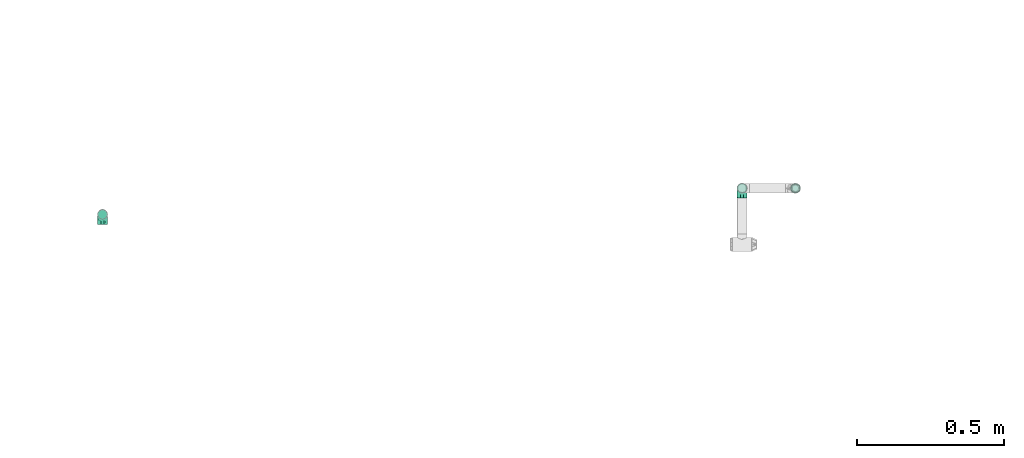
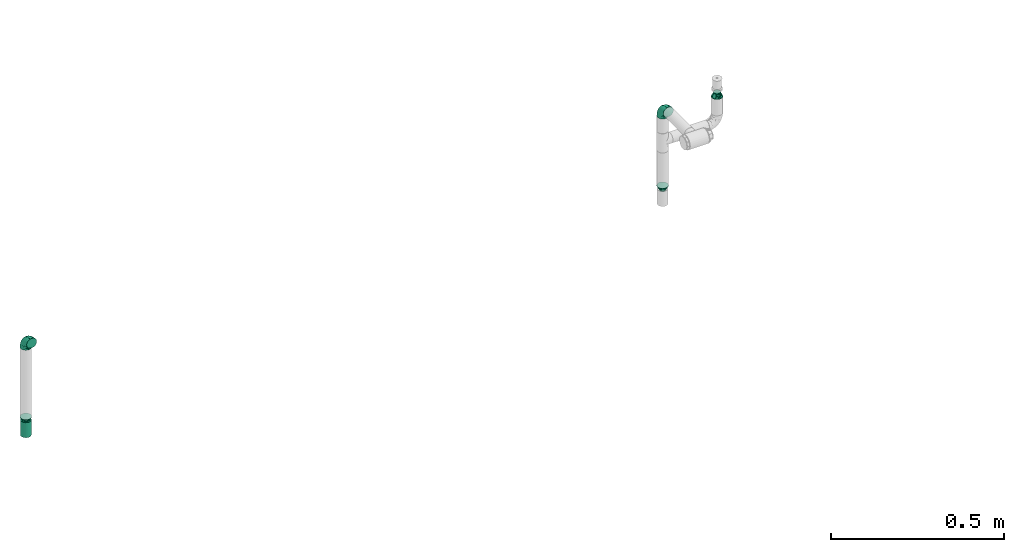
# One storey, part 132 of 157: 5 flow fittings, 1 flow terminal.
"""IFC2X3 building model written with IfcOpenShell, lengths in millimetres."""

from ifc_helpers import new_model, entity, si_unit, converted_unit, derived_unit, direction, frame, origin_with_axes, place, context, subcontext, project, spatial, open_shell, surface_model, source, transform, mapped, type_object, element, save


model = new_model("IFC2X3")

# Units and contexts
model_context = context("Model", 3, precision=0.01, world=frame((0.0, 4.29681676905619e-09, 0.0)), true_north=direction((4.01073788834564e-13, 1.0)))
plan_context = context("Plan", 3, precision=0.01, world=frame((0.0, 4.29681676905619e-09, 0.0)), true_north=direction((4.01073788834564e-13, 1.0)))
body_context = subcontext(model_context, "Body", "Model", "MODEL_VIEW")
ifc_project = project(units=[converted_unit("PLANEANGLEUNIT", "DEGREE", entity("IfcPositiveLengthMeasure", 0.0174532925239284), si_unit("PLANEANGLEUNIT", "RADIAN"), dimensions=[0, 0, 0, 0, 0, 0, 0]), si_unit("AREAUNIT", "SQUARE_METRE"), si_unit("LENGTHUNIT", "METRE", prefix="MILLI"), si_unit("MASSUNIT", "GRAM", prefix="KILO"), si_unit("POWERUNIT", "WATT"), si_unit("PRESSUREUNIT", "PASCAL"), si_unit("FORCEUNIT", "NEWTON", prefix="KILO"), si_unit("ELECTRICCURRENTUNIT", "AMPERE"), si_unit("THERMODYNAMICTEMPERATUREUNIT", "DEGREE_CELSIUS"), si_unit("TIMEUNIT", "SECOND"), si_unit("VOLUMEUNIT", "CUBIC_METRE"), derived_unit("LINEARVELOCITYUNIT", [(si_unit("LENGTHUNIT", "METRE"), 1), (si_unit("TIMEUNIT", "SECOND"), -1)]), derived_unit("VOLUMETRICFLOWRATEUNIT", [(si_unit("VOLUMEUNIT", "CUBIC_METRE"), 1), (si_unit("TIMEUNIT", "SECOND"), -1)]), derived_unit("THERMALTRANSMITTANCEUNIT", [(si_unit("POWERUNIT", "WATT"), 1), (si_unit("THERMODYNAMICTEMPERATUREUNIT", "KELVIN"), -1), (si_unit("AREAUNIT", "SQUARE_METRE"), -1)])], contexts=[model_context, plan_context])

# Site, building, storey
site_placement = place(None, frame((0.0, -4.29681676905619e-09, 0.0), z_axis=(0.0, 0.0, 1.0), x_axis=(1.0, 0.0, 0.0)))
site = spatial("IfcSite", under=ifc_project, at=site_placement, CompositionType="ELEMENT")
building_placement = place(site_placement, frame((0.0, 4.29681676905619e-09, 0.0), z_axis=(0.0, 0.0, 1.0), x_axis=(1.0, 0.0, 0.0)))
building = spatial("IfcBuilding", under=site, at=building_placement, Name="mc-building", CompositionType="ELEMENT")
storey_placement = place(building_placement, frame((0.0, 0.0, 204000.0), z_axis=(0.0, 0.0, 1.0), x_axis=(1.0, 0.0, 0.0)))
storey = spatial("IfcBuildingStorey", under=building, at=storey_placement, Name="Nivå D", CompositionType="ELEMENT", Elevation=204000.0)

# Flow fittings
pipe_fitting_type_1 = type_object("IfcPipeFittingType", Name="magi_pipe_fe_elbow_short_001", PredefinedType="BEND")
shared_shape_1 = source(origin_with_axes(), body_context, "Body", "SurfaceModel", [
    surface_model("IfcShellBasedSurfaceModel", [(-33.8, 8.45, -14.63583), (-33.8, 4.37404, -16.32415), (-33.8, 11.9501, -11.9501), (-33.8, -11.9501, -11.9501), (-33.8, -14.63583, -8.45), (-33.8, -8.45, -14.63583), (-33.8, 0.0, -16.9), (-33.8, -4.37404, -16.32415), (-33.8, -4.37404, 16.32415), (-33.8, 0.0, 16.9), (-33.8, -8.45, 14.63583), (-33.8, 16.32415, -4.37404), (-33.8, 14.63583, -8.45), (-33.8, -16.32415, -4.37404), (-33.8, -16.9, 0.0), (-33.8, -16.32415, 4.37404), (-33.8, 11.9501, 11.9501), (-33.8, 14.63583, 8.45), (-33.8, 16.32415, 4.37404), (-33.8, 4.37404, 16.32415), (-33.8, 8.45, 14.63583), (-33.8, -14.63583, 8.45), (-33.8, -11.9501, 11.9501), (-33.8, 16.9, 0.0), (-11.9501, 33.8, -11.9501), (0.0, 33.8, -16.9), (-4.37404, 33.8, -16.32415), (-8.45, 33.8, -14.63583), (-14.63583, 33.8, -8.45), (-16.32415, 33.8, -4.37404), (14.63583, 33.8, -8.45), (8.45, 33.8, 14.63583), (16.32415, 33.8, -4.37404), (8.45, 33.8, -14.63583), (11.9501, 33.8, -11.9501), (4.37404, 33.8, -16.32415), (16.32415, 33.8, 4.37404), (16.9, 33.8, 0.0), (-11.9501, 33.8, 11.9501), (-16.32415, 33.8, 4.37404), (-14.63583, 33.8, 8.45), (-8.45, 33.8, 14.63583), (-4.37404, 33.8, 16.32415), (11.9501, 33.8, 11.9501), (14.63583, 33.8, 8.45), (0.0, 33.8, 16.9), (4.37404, 33.8, 16.32415), (-16.9, 33.8, 0.0), (-24.79389, -13.12945, 9.48721), (-22.19287, -9.75018, 12.59315), (-24.09897, -14.97035, 0.0), (-14.93934, -10.76256, 8.5297), (-22.46095, -14.75051, 5.27077), (14.75051, 22.46094, 5.27077), (11.9251, 13.23888, 4.33236), (13.04069, 14.39795, 0.0), (7.71387, 13.68847, 11.55891), (9.75018, 22.19287, 12.59315), (4.10169, 13.0571, 14.04018), (-24.84007, -6.39063, 15.2048), (-25.81779, -2.23879, 16.61097), (-23.66549, 2.59054, 16.87119), (-26.50418, 14.06512, 11.08152), (-24.21253, 17.66365, 7.72657), (-29.58514, 15.86957, 7.00283), (-6.17382, -7.5455, 0.0), (-13.23888, -11.9251, 4.33236), (-14.39795, -13.04069, 0.0), (-17.81434, 18.87373, 11.97104), (-6.30846, 29.15138, 15.82987), (-2.31622, 25.28002, 16.85849), (-29.23923, 10.23435, 13.77053), (-1.45439, -2.85688, 7.61475), (-0.28326, 0.34872, 10.09509), (-5.74484, -4.04709, 10.4122), (-4.41137, 11.31918, 16.59407), (-8.39727, 3.10034, 15.7812), (-1.72649, 9.1306, 15.53089), (-17.39909, 24.75344, 7.64977), (-26.19233, 20.0512, 0.0), (-28.14518, 17.29657, 4.25857), (-26.05147, 6.6281, 15.96447), (-5.87354, 16.61944, 16.86968), (-12.51807, 12.51807, 16.48937), (-10.06312, 7.38516, 16.81295), (-3.01882, 3.01882, 13.81718), (-13.0571, -4.10169, 14.04018), (-16.82553, -0.15166, 16.38038), (10.76256, 14.93934, 8.5297), (13.12945, 24.79389, 9.48721), (6.39063, 24.84007, 15.2048), (2.23879, 25.81779, 16.61097), (-13.68847, -7.71387, 11.55891), (14.97035, 24.09897, 0.0), (-7.30894, 22.89991, 16.09489), (-10.67958, 26.17414, 14.008), (-12.78295, 18.26924, 15.06066), (-13.88562, 22.45231, 12.93244), (-18.04944, 15.16501, 14.04434), (-23.11658, 20.08178, 4.02986), (-21.84989, 21.84989, 0.0), (-18.55817, 25.48277, 3.93065), (-13.95142, 26.94732, 11.03289), (-18.57098, 7.23906, 16.59756), (-16.58335, 4.14122, 16.89279), (-17.96666, 11.46709, 15.63151), (-9.84453, 17.54304, 16.18938), (0.15166, 16.82553, 16.38038), (-23.27207, 11.47201, 14.23154), (3.84842, 5.86994, 10.70473), (-8.0212, -7.54413, 7.93275), (1.00345, -2.19508, 4.57414), (5.13203, 3.01004, 5.90201), (5.24161, 1.7543, 2.53265), (8.70457, 7.04947, 3.99182), (-20.0512, 26.19233, 0.0), (8.4852, 8.76699, 7.09296), (-4.55488, -6.72064, 4.90681), (2.05031, -2.05031, 0.0), (7.5455, 6.17382, 0.0), (-26.75399, 2.1369, -16.845), (-14.61995, 24.73803, -11.27736), (-28.45274, -13.45335, -9.81895), (-26.00469, 6.63555, -15.96645), (-23.06726, 20.04573, -4.26202), (-13.80647, -4.26506, -14.17873), (-14.67501, -0.21081, -16.07388), (-6.7902, -0.2828, -13.8478), (-24.53586, 11.08096, -14.13417), (-26.72048, 14.00837, -11.05776), (10.0967, 24.44989, -12.75976), (5.83237, 21.40218, -15.03047), (6.66249, 28.54238, -15.38093), (-20.38182, 15.48705, -12.74596), (12.53268, 21.23441, -9.15363), (12.54494, 15.67504, -5.54878), (9.7522, 12.89279, -8.66343), (-15.65186, 19.64213, -13.01327), (-12.03528, 20.66498, -14.67665), (-15.61907, 15.61906, -14.83879), (-25.56551, -15.26206, 0.0), (-24.65452, -15.12934, -5.50955), (13.45335, 28.45274, -9.81895), (15.12934, 24.65452, -5.50955), (-7.35442, -8.31014, -5.65563), (-15.67504, -12.54494, -5.54878), (-24.44989, -10.0967, -12.75976), (0.16522, 0.41303, -9.71728), (-5.70658, -5.33066, -8.89288), (-5.13869, -2.37198, -11.53565), (-21.23441, -12.53268, -9.15363), (0.71146, 7.93863, -14.09382), (0.21081, 14.67501, -16.07388), (3.49291, 14.42772, -14.76381), (-24.89911, -2.13088, -16.591), (-28.54238, -6.66249, -15.38093), (-18.44386, -7.71663, -13.26957), (2.13088, 24.89911, -16.591), (-28.64342, 17.44413, -2.89318), (1.70017, -1.28722, -5.09504), (-16.57067, 26.81947, -7.36596), (-17.69055, 27.4263, -3.76405), (-12.89279, -9.7522, -8.66343), (-5.96611, 5.96611, -15.95814), (-20.53709, 20.09345, -8.28985), (-2.1369, 26.75399, -16.845), (-6.89872, 24.58781, -16.02578), (-10.60739, 26.53157, -13.98044), (-21.40218, -5.83237, -15.03047), (2.93192, 5.89627, -11.55917), (6.89393, 12.61842, -11.82233), (5.58056, 5.95325, -8.79455), (-3.99512, 18.61798, -16.89635), (8.31014, 7.35442, -5.65563), (-9.1383, 9.86148, -16.89041), (-9.99983, 16.02119, -16.39699), (-16.68576, 9.78031, -16.34199), (-27.01915, 16.61158, -7.12979), (15.26206, 25.56551, 0.0), (-18.61798, 3.99512, -16.89635), (-19.37495, 27.82495, 0.0), (-12.61842, -6.89393, -11.82233), (-18.84705, 19.14018, -10.96545)], [open_shell([[[0, 1, 2]], [[3, 4, 5]], [[6, 7, 5]], [[8, 9, 10]], [[1, 6, 2]], [[11, 12, 2]], [[4, 2, 6]], [[2, 13, 10]], [[5, 4, 6]], [[2, 4, 13]], [[14, 15, 13]], [[11, 2, 16]], [[11, 17, 18]], [[11, 16, 17]], [[19, 20, 16]], [[16, 2, 10]], [[19, 16, 10]], [[21, 22, 15]], [[22, 13, 15]], [[22, 10, 13]], [[10, 9, 19]], [[11, 18, 23]], [[24, 25, 26]], [[24, 26, 27]], [[24, 28, 29]], [[25, 24, 30]], [[31, 32, 24]], [[33, 30, 34]], [[33, 35, 25]], [[25, 30, 33]], [[32, 30, 24]], [[32, 36, 37]], [[38, 24, 29]], [[39, 40, 29]], [[40, 38, 29]], [[38, 41, 42]], [[38, 31, 24]], [[31, 38, 42]], [[36, 43, 44]], [[36, 32, 43]], [[31, 45, 46]], [[32, 31, 43]], [[42, 45, 31]], [[39, 29, 47]], [[22, 48, 49]], [[15, 14, 50]], [[51, 48, 52]], [[53, 54, 55]], [[48, 22, 21]], [[15, 52, 21]], [[56, 57, 58]], [[49, 10, 22]], [[49, 59, 10]], [[9, 60, 61]], [[62, 63, 64]], [[65, 66, 67]], [[57, 43, 31]], [[62, 68, 63]], [[42, 69, 70]], [[20, 71, 16]], [[8, 60, 9]], [[72, 73, 74]], [[75, 76, 77]], [[16, 62, 17]], [[40, 39, 78]], [[79, 23, 80]], [[64, 18, 17]], [[9, 61, 19]], [[19, 81, 20]], [[82, 83, 84]], [[74, 85, 86]], [[59, 86, 87]], [[88, 89, 57]], [[90, 31, 46]], [[44, 53, 36]], [[46, 45, 91]], [[54, 53, 88]], [[44, 89, 53]], [[92, 86, 49]], [[89, 44, 43]], [[10, 59, 8]], [[53, 55, 93]], [[93, 36, 53]], [[66, 52, 67]], [[94, 82, 70]], [[95, 96, 94]], [[97, 98, 96]], [[79, 99, 100]], [[41, 38, 95]], [[101, 100, 99]], [[68, 78, 63]], [[42, 41, 69]], [[23, 18, 80]], [[95, 94, 69]], [[78, 101, 99]], [[38, 102, 95]], [[70, 45, 42]], [[97, 95, 102]], [[15, 50, 52]], [[90, 57, 31]], [[57, 90, 58]], [[81, 19, 61]], [[103, 104, 84]], [[105, 81, 103]], [[38, 40, 102]], [[106, 96, 83]], [[94, 106, 82]], [[91, 70, 107]], [[71, 62, 16]], [[62, 108, 98]], [[86, 59, 49]], [[67, 52, 50]], [[60, 59, 87]], [[92, 49, 51]], [[86, 85, 76]], [[91, 90, 46]], [[37, 36, 93]], [[107, 77, 58]], [[107, 58, 90]], [[58, 85, 109]], [[110, 74, 92]], [[72, 74, 110]], [[66, 51, 52]], [[72, 111, 112]], [[113, 114, 112]], [[56, 88, 57]], [[52, 48, 21]], [[49, 48, 51]], [[57, 89, 43]], [[53, 89, 88]], [[103, 81, 61]], [[71, 81, 108]], [[18, 64, 80]], [[63, 78, 99]], [[47, 115, 101]], [[101, 115, 100]], [[40, 78, 102]], [[68, 102, 78]], [[97, 96, 95]], [[105, 98, 108]], [[103, 84, 83]], [[107, 70, 82]], [[76, 84, 87]], [[82, 84, 75]], [[70, 91, 45]], [[90, 91, 107]], [[59, 60, 8]], [[61, 60, 87]], [[73, 85, 74]], [[109, 112, 116]], [[103, 61, 104]], [[105, 103, 83]], [[96, 105, 83]], [[81, 105, 108]], [[96, 98, 105]], [[62, 98, 68]], [[61, 87, 104]], [[87, 84, 104]], [[86, 76, 87]], [[77, 76, 85]], [[58, 77, 85]], [[75, 77, 107]], [[82, 75, 107]], [[76, 75, 84]], [[81, 71, 20]], [[62, 71, 108]], [[95, 69, 41]], [[70, 69, 94]], [[62, 64, 17]], [[80, 63, 99]], [[63, 80, 64]], [[80, 99, 79]], [[66, 65, 117]], [[110, 66, 117]], [[112, 114, 116]], [[118, 117, 65]], [[110, 92, 51]], [[112, 111, 113]], [[119, 55, 54]], [[74, 86, 92]], [[58, 109, 56]], [[116, 56, 109]], [[66, 110, 51]], [[72, 110, 117]], [[111, 72, 117]], [[73, 112, 109]], [[117, 118, 111]], [[113, 111, 118]], [[118, 119, 113]], [[114, 119, 54]], [[119, 114, 113]], [[116, 54, 88]], [[54, 116, 114]], [[116, 88, 56]], [[112, 73, 72]], [[85, 73, 109]], [[78, 39, 101]], [[47, 101, 39]], [[102, 68, 97]], [[97, 68, 98]], [[82, 106, 83]], [[94, 96, 106]], [[1, 120, 6]], [[28, 24, 121]], [[3, 122, 4]], [[0, 123, 1]], [[100, 124, 79]], [[125, 126, 127]], [[128, 2, 129]], [[130, 131, 132]], [[128, 129, 133]], [[134, 135, 136]], [[137, 138, 139]], [[128, 0, 2]], [[67, 140, 141]], [[134, 142, 143]], [[141, 13, 4]], [[144, 65, 145]], [[146, 3, 5]], [[147, 148, 149]], [[145, 141, 150]], [[151, 152, 153]], [[154, 7, 6]], [[5, 155, 146]], [[150, 146, 156]], [[155, 5, 7]], [[143, 135, 134]], [[35, 157, 25]], [[23, 79, 158]], [[148, 159, 144]], [[160, 161, 29]], [[145, 162, 144]], [[163, 152, 151]], [[29, 28, 160]], [[121, 164, 160]], [[33, 34, 130]], [[25, 165, 26]], [[26, 165, 166]], [[142, 34, 30]], [[24, 27, 167]], [[124, 161, 164]], [[157, 35, 132]], [[155, 154, 168]], [[123, 0, 128]], [[169, 170, 171]], [[172, 157, 152]], [[26, 166, 27]], [[132, 35, 33]], [[142, 130, 34]], [[168, 154, 126]], [[136, 135, 173]], [[133, 137, 139]], [[2, 12, 129]], [[170, 131, 130]], [[30, 32, 143]], [[172, 174, 175]], [[176, 123, 128]], [[158, 177, 11]], [[135, 55, 119]], [[167, 27, 166]], [[175, 166, 172]], [[137, 167, 138]], [[122, 141, 4]], [[140, 14, 13]], [[32, 37, 178]], [[170, 130, 134]], [[152, 157, 131]], [[165, 157, 172]], [[153, 170, 151]], [[152, 163, 174]], [[168, 125, 156]], [[122, 146, 150]], [[120, 154, 6]], [[179, 174, 126]], [[179, 126, 154]], [[126, 163, 127]], [[162, 145, 150]], [[140, 13, 141]], [[32, 178, 143]], [[55, 143, 178]], [[177, 129, 12]], [[128, 133, 139]], [[176, 128, 139]], [[120, 123, 179]], [[121, 160, 28]], [[161, 100, 180]], [[166, 175, 138]], [[121, 24, 167]], [[161, 47, 29]], [[79, 124, 158]], [[124, 164, 177]], [[161, 124, 100]], [[136, 171, 170]], [[127, 163, 151]], [[147, 171, 159]], [[148, 144, 162]], [[127, 151, 169]], [[127, 181, 125]], [[129, 177, 164]], [[12, 11, 177]], [[159, 65, 144]], [[67, 141, 145]], [[143, 55, 135]], [[135, 119, 173]], [[123, 120, 1]], [[154, 120, 179]], [[157, 165, 25]], [[166, 165, 172]], [[172, 152, 174]], [[176, 139, 175]], [[126, 174, 163]], [[176, 174, 179]], [[174, 176, 175]], [[123, 176, 179]], [[150, 181, 162]], [[127, 149, 181]], [[181, 148, 162]], [[159, 148, 147]], [[171, 136, 173]], [[170, 134, 136]], [[159, 171, 173]], [[171, 147, 169]], [[169, 147, 149]], [[151, 170, 169]], [[164, 182, 129]], [[182, 121, 137]], [[181, 149, 148]], [[169, 149, 127]], [[182, 137, 133]], [[167, 137, 121]], [[166, 138, 167]], [[175, 139, 138]], [[129, 182, 133]], [[121, 182, 164]], [[161, 160, 164]], [[47, 161, 180]], [[177, 158, 124]], [[23, 158, 11]], [[130, 132, 33]], [[157, 132, 131]], [[143, 142, 30]], [[130, 142, 134]], [[154, 155, 7]], [[146, 155, 168]], [[146, 122, 3]], [[141, 122, 150]], [[152, 131, 153]], [[159, 119, 118]], [[67, 145, 65]], [[170, 153, 131]], [[119, 159, 173]], [[159, 118, 65]], [[156, 125, 181]], [[126, 125, 168]], [[150, 156, 181]], [[168, 156, 146]]])]),
])
for number, where, z_axis, x_axis, name in (
    (1, (515833.78292, 420208.84509, 2690.0), (1.0, 0.0, 0.0), (0.0, 0.0, 1.0), "magi_pipe_fe_elbow_short_001"),
    (2, (518009.38219, 420297.85762, 2690.0), (-1.0, 0.0, 0.0), (0.0, 1.0, 0.0), "magi_pipe_fe_elbow_short_001"),
):
    element("IfcFlowFitting", number, at=place(storey_placement, frame(where, z_axis=z_axis, x_axis=x_axis)), inside=storey, type_object=pipe_fitting_type_1, Name=name, context=body_context, shape_type="MappedRepresentation", body=[
        mapped(shared_shape_1, transform((0.0, 0.0, 0.0), scale=1.0)),
    ])
pipe_fitting_type_2 = type_object("IfcPipeFittingType", Name="magi_pipe_fe_reducer_centric_short_NOR", PredefinedType="TRANSITION")
shared_shape_2 = source(origin_with_axes(), body_context, "Body", "SurfaceModel", [
    surface_model("IfcShellBasedSurfaceModel", [(-2.0, -7.56604, -7.56604), (-2.0, -10.33541, -2.76936), (-2.0, -5.35, -9.26647), (-2.0, 5.35, -9.26647), (-2.0, 10.33541, -2.76936), (-2.0, 7.56604, -7.56604), (12.4, 11.9501, 11.9501), (12.4, 0.0, 16.9), (12.4, 11.9501, -11.9501), (12.4, 16.9, 0.0), (0.0, -10.7, 0.0), (0.0, -5.35, 9.26647), (0.0, -5.35, -9.26647), (0.0, 10.7, 0.0), (12.4, 15.66253, -2.98753), (12.4, 8.96258, -13.18758), (0.0, 6.6875, -6.94985), (12.4, -15.66253, -2.98753), (12.4, -16.9, 0.0), (12.4, 5.97505, -14.42505), (0.0, 5.35, -9.26647), (12.4, 14.42505, -5.97505), (0.0, 8.025, -4.63324), (0.0, 9.3625, -2.31662), (0.0, -9.3625, -2.31662), (0.0, -8.025, -4.63324), (12.4, -14.42505, -5.97505), (12.4, 13.18758, -8.96258), (12.4, -13.18758, -8.96258), (12.4, -11.9501, -11.9501), (0.0, -6.6875, -6.94985), (12.4, -8.96258, -13.18758), (12.4, -5.97505, -14.42505), (12.4, -15.66253, 2.98753), (12.4, -8.96258, 13.18758), (0.0, -6.6875, 6.94985), (12.4, -11.9501, 11.9501), (12.4, 15.66253, 2.98753), (12.4, -5.97505, 14.42505), (12.4, -14.42505, 5.97505), (0.0, -8.025, 4.63324), (0.0, -9.3625, 2.31662), (0.0, 9.3625, 2.31662), (0.0, 8.025, 4.63324), (12.4, 14.42505, 5.97505), (12.4, -13.18758, 8.96258), (12.4, 13.18758, 8.96258), (0.0, 6.6875, 6.94985), (12.4, 8.96258, 13.18758), (0.0, 5.35, 9.26647), (12.4, 5.97505, 14.42505), (14.4, 4.37404, -16.32415), (14.4, 8.45, -14.63583), (14.4, 11.9501, -11.9501), (14.4, -8.45, -14.63583), (14.4, 16.32415, -4.37404), (14.4, 16.32415, 4.37404), (14.4, 14.63583, -8.45), (14.4, 0.0, -16.9), (14.4, -4.37404, -16.32415), (14.4, -11.9501, -11.9501), (14.4, -16.32415, -4.37404), (14.4, -14.63583, -8.45), (14.4, -16.32415, 4.37404), (14.4, 16.9, 0.0), (14.4, 14.63583, 8.45), (14.4, 11.9501, 11.9501), (14.4, 4.37404, 16.32415), (14.4, 8.45, 14.63583), (14.4, 0.0, 16.9), (14.4, -14.63583, 8.45), (14.4, -16.9, 0.0), (14.4, -8.45, 14.63583), (14.4, -11.9501, 11.9501), (14.4, -4.37404, 16.32415), (12.4, 4.37404, 16.32415), (12.4, -14.63583, 8.45), (12.4, 16.32415, 4.37404), (12.4, 8.45, 14.63583), (12.4, 14.63583, 8.45), (12.4, -8.45, 14.63583), (12.4, -4.37404, 16.32415), (12.4, -16.32415, 4.37404), (12.4, -16.32415, -4.37404), (12.4, -8.45, -14.63583), (12.4, 16.32415, -4.37404), (12.4, 14.63583, -8.45), (12.4, 8.45, -14.63583), (12.4, 4.37404, -16.32415), (12.4, 0.0, -16.9), (12.4, -14.63583, -8.45), (12.4, -4.37404, -16.32415), (-2.0, 2.76936, 10.33541), (-2.0, 0.0, 10.7), (-2.0, 5.35, 9.26647), (-2.0, 7.56604, 7.56604), (-2.0, 9.26647, 5.35), (-2.0, 10.33541, 2.76936), (-2.0, -10.33541, 2.76936), (-2.0, -2.76936, 10.33541), (-2.0, -7.56604, 7.56604), (-2.0, -5.35, 9.26647), (-2.0, -9.26647, 5.35), (-2.0, -10.7, 0.0), (-2.0, 9.26647, -5.35), (-2.0, 2.76936, -10.33541), (-2.0, -9.26647, -5.35), (-2.0, 0.0, -10.7), (-2.0, -2.76936, -10.33541), (-2.0, 10.7, 0.0), (0.0, 0.0, -10.7), (0.0, 2.76936, -10.33541), (0.0, 10.33541, -2.76936), (0.0, 7.56604, -7.56604), (0.0, -10.33541, -2.76936), (0.0, 9.26647, -5.35), (0.0, 0.0, 10.7), (0.0, -2.76936, -10.33541), (0.0, -7.56604, -7.56604), (0.0, -9.26647, -5.35), (0.0, 10.33541, 2.76936), (0.0, 9.26647, 5.35), (0.0, 7.56604, 7.56604), (0.0, 2.76936, 10.33541), (0.0, -7.56604, 7.56604), (0.0, -10.33541, 2.76936), (0.0, -9.26647, 5.35), (0.0, -2.76936, 10.33541), (0.0, 2.675, -9.26647), (0.0, -2.675, -9.26647), (12.4, 2.98753, -15.66253), (0.0, 0.0, -9.26647), (12.4, -2.98753, -15.66253), (0.0, -2.675, 9.26647), (0.0, 2.675, 9.26647), (12.4, -2.98753, 15.66253), (0.0, 0.0, 9.26647), (12.4, 2.98753, 15.66253)], [open_shell([[[0, 1, 2]], [[3, 4, 5]], [[6, 7, 8]], [[8, 9, 6]], [[10, 11, 12]], [[13, 9, 14]], [[15, 16, 8]], [[17, 18, 10]], [[15, 19, 20]], [[21, 22, 23]], [[24, 25, 26]], [[22, 21, 27]], [[28, 26, 25]], [[29, 30, 31]], [[12, 32, 31]], [[10, 18, 33]], [[34, 35, 36]], [[37, 9, 13]], [[34, 38, 11]], [[39, 40, 41]], [[42, 43, 44]], [[40, 39, 45]], [[46, 44, 43]], [[6, 47, 48]], [[49, 50, 48]], [[51, 52, 53]], [[54, 51, 53]], [[53, 55, 56]], [[55, 53, 57]], [[53, 56, 54]], [[58, 54, 59]], [[58, 51, 54]], [[60, 61, 62]], [[61, 60, 54]], [[54, 63, 61]], [[56, 55, 64]], [[56, 65, 66]], [[56, 66, 67]], [[67, 63, 54]], [[67, 66, 68]], [[63, 67, 69]], [[69, 70, 63]], [[71, 61, 63]], [[70, 72, 73]], [[70, 69, 72]], [[72, 69, 74]], [[54, 56, 67]], [[75, 76, 7]], [[77, 75, 78]], [[6, 79, 77]], [[6, 77, 78]], [[76, 75, 77]], [[80, 76, 36]], [[80, 81, 7]], [[7, 76, 80]], [[82, 76, 77]], [[82, 83, 18]], [[82, 77, 84]], [[77, 85, 8]], [[8, 85, 86]], [[8, 87, 88]], [[84, 77, 8]], [[88, 89, 8]], [[83, 29, 90]], [[29, 83, 84]], [[84, 89, 91]], [[83, 82, 84]], [[8, 89, 84]], [[85, 77, 9]], [[83, 61, 18]], [[90, 62, 83]], [[54, 29, 84]], [[90, 29, 60]], [[59, 84, 91]], [[83, 62, 61]], [[61, 71, 18]], [[59, 54, 84]], [[60, 29, 54]], [[60, 62, 90]], [[58, 59, 91]], [[91, 89, 58]], [[88, 51, 89]], [[87, 52, 88]], [[57, 8, 86]], [[87, 8, 53]], [[55, 86, 85]], [[87, 53, 52]], [[52, 51, 88]], [[64, 55, 85]], [[57, 86, 55]], [[57, 53, 8]], [[9, 64, 85]], [[89, 51, 58]], [[77, 56, 9]], [[79, 65, 77]], [[68, 6, 78]], [[79, 6, 66]], [[67, 78, 75]], [[77, 65, 56]], [[56, 64, 9]], [[67, 68, 78]], [[66, 6, 68]], [[66, 65, 79]], [[69, 67, 75]], [[75, 7, 69]], [[81, 74, 7]], [[80, 72, 81]], [[70, 36, 76]], [[80, 36, 73]], [[63, 76, 82]], [[80, 73, 72]], [[72, 74, 81]], [[71, 63, 82]], [[70, 76, 63]], [[70, 73, 36]], [[18, 71, 82]], [[7, 74, 69]], [[92, 1, 93]], [[94, 1, 92]], [[95, 96, 97]], [[95, 97, 94]], [[98, 93, 1]], [[99, 100, 101]], [[99, 93, 100]], [[100, 98, 102]], [[93, 98, 100]], [[98, 1, 103]], [[94, 97, 1]], [[1, 97, 4]], [[5, 4, 104]], [[4, 3, 1]], [[105, 1, 3]], [[1, 0, 106]], [[2, 107, 108]], [[2, 1, 105]], [[105, 107, 2]], [[4, 97, 109]], [[20, 110, 111]], [[112, 20, 113]], [[114, 20, 112]], [[112, 113, 115]], [[116, 114, 112]], [[110, 12, 117]], [[110, 20, 12]], [[118, 114, 119]], [[114, 118, 12]], [[20, 114, 12]], [[112, 13, 120]], [[120, 121, 122]], [[120, 122, 123]], [[116, 112, 123]], [[123, 122, 49]], [[116, 124, 114]], [[125, 124, 126]], [[10, 114, 125]], [[124, 127, 11]], [[125, 114, 124]], [[127, 124, 116]], [[123, 112, 120]], [[1, 114, 103]], [[106, 119, 1]], [[12, 0, 2]], [[106, 0, 118]], [[117, 2, 108]], [[1, 119, 114]], [[114, 10, 103]], [[117, 12, 2]], [[118, 0, 12]], [[118, 119, 106]], [[110, 117, 108]], [[108, 107, 110]], [[105, 111, 107]], [[3, 20, 105]], [[115, 5, 104]], [[3, 5, 113]], [[112, 104, 4]], [[3, 113, 20]], [[20, 111, 105]], [[13, 112, 4]], [[115, 104, 112]], [[115, 113, 5]], [[109, 13, 4]], [[107, 111, 110]], [[97, 120, 109]], [[96, 121, 97]], [[49, 95, 94]], [[96, 95, 122]], [[123, 94, 92]], [[97, 121, 120]], [[120, 13, 109]], [[123, 49, 94]], [[122, 95, 49]], [[122, 121, 96]], [[116, 123, 92]], [[92, 93, 116]], [[99, 127, 93]], [[101, 11, 99]], [[126, 100, 102]], [[101, 100, 124]], [[125, 102, 98]], [[101, 124, 11]], [[11, 127, 99]], [[10, 125, 98]], [[126, 102, 125]], [[126, 124, 100]], [[103, 10, 98]], [[93, 127, 116]], [[18, 7, 36]], [[18, 29, 8]], [[89, 8, 29]], [[18, 8, 7]], [[13, 11, 49]], [[13, 20, 12]], [[13, 12, 11]], [[24, 26, 17]], [[10, 24, 17]], [[16, 15, 20]], [[30, 12, 31]], [[23, 14, 21]], [[19, 128, 20]], [[27, 8, 16]], [[32, 12, 129]], [[30, 28, 25]], [[130, 131, 128]], [[129, 132, 32]], [[16, 22, 27]], [[13, 14, 23]], [[128, 19, 130]], [[130, 89, 131]], [[131, 132, 129]], [[89, 132, 131]], [[28, 30, 29]], [[42, 44, 37]], [[13, 42, 37]], [[35, 34, 11]], [[47, 49, 48]], [[41, 33, 39]], [[38, 133, 11]], [[45, 36, 35]], [[50, 49, 134]], [[47, 46, 43]], [[135, 136, 133]], [[134, 137, 50]], [[35, 40, 45]], [[10, 33, 41]], [[133, 38, 135]], [[135, 7, 136]], [[136, 137, 134]], [[7, 137, 136]], [[46, 47, 6]]])]),
])
for number, where, z_axis, x_axis, name in (
    (3, (518009.38219, 420297.85762, 2396.95199999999), (1.0, 0.0, 0.0), (0.0, 0.0, 1.0), "magi_pipe_fe_reducer_centric_short_NOR"),
    (4, (515833.78292, 420208.84509, 2396.95199999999), (0.0, 1.0, 0.0), (0.0, 0.0, 1.0), "magi_pipe_fe_reducer_centric_short_NOR"),
    (5, (518190.99696, 420297.85762, 2675.04800000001), (0.0, -1.0, 0.0), (0.0, 0.0, -1.0), "magi_pipe_fe_reducer_centric_short_NOR"),
):
    element("IfcFlowFitting", number, at=place(storey_placement, frame(where, z_axis=z_axis, x_axis=x_axis)), inside=storey, type_object=pipe_fitting_type_2, Name=name, context=body_context, shape_type="MappedRepresentation", body=[
        mapped(shared_shape_2, transform((0.0, 0.0, 0.0), scale=1.0)),
    ])

# Flow terminal
fire_suppression_terminal_type = type_object("IfcFireSuppressionTerminalType", Name="SP-15-K80-68DGR-STD-HIMLING", PredefinedType="NOTDEFINED")
shared_shape_3 = source(origin_with_axes(), body_context, "Body", "SurfaceModel", [
    surface_model("IfcShellBasedSurfaceModel", [(4.1411, -15.45481, 53.0), (8.0, -13.85641, 53.0), (11.31371, -11.31371, 53.0), (-8.0, -13.85641, 53.0), (15.45481, -4.1411, 53.0), (16.0, 0.0, 53.0), (13.85641, -8.0, 53.0), (0.0, -16.0, 53.0), (-4.1411, -15.45481, 53.0), (-13.85641, -8.0, 53.0), (-11.31371, -11.31371, 53.0), (-15.45481, -4.1411, 53.0), (15.45481, 4.1411, 53.0), (13.85641, 8.0, 53.0), (11.31371, 11.31371, 53.0), (-4.1411, 15.45481, 53.0), (8.0, 13.85641, 53.0), (4.1411, 15.45481, 53.0), (0.0, 16.0, 53.0), (-13.85641, 8.0, 53.0), (-15.45481, 4.1411, 53.0), (-16.0, 0.0, 53.0), (-11.31371, 11.31371, 53.0), (-8.0, 13.85641, 53.0), (0.0, 16.0, 0.0), (4.1411, 15.45481, 0.0), (8.0, 13.85641, 0.0), (-4.1411, 15.45481, 0.0), (11.31371, 11.31371, 0.0), (13.85641, 8.0, 0.0), (15.45481, 4.1411, 0.0), (-15.45481, -4.1411, 0.0), (-11.31371, 11.31371, 0.0), (-8.0, 13.85641, 0.0), (-13.85641, 8.0, 0.0), (-15.45481, 4.1411, 0.0), (-16.0, 0.0, 0.0), (4.1411, -15.45481, 0.0), (16.0, 0.0, 0.0), (15.45481, -4.1411, 0.0), (13.85641, -8.0, 0.0), (11.31371, -11.31371, 0.0), (8.0, -13.85641, 0.0), (-8.0, -13.85641, 0.0), (-13.85641, -8.0, 0.0), (-11.31371, -11.31371, 0.0), (0.0, -16.0, 0.0), (-4.1411, -15.45481, 0.0)], [open_shell([[[0, 1, 2]], [[3, 0, 2]], [[4, 5, 2]], [[4, 2, 6]], [[3, 2, 5]], [[7, 3, 8]], [[7, 0, 3]], [[3, 9, 10]], [[9, 3, 11]], [[5, 11, 3]], [[5, 12, 11]], [[12, 13, 14]], [[15, 12, 14]], [[16, 17, 18]], [[14, 16, 15]], [[18, 15, 16]], [[11, 19, 20]], [[21, 11, 20]], [[22, 15, 23]], [[15, 22, 19]], [[19, 11, 15]], [[11, 12, 15]], [[24, 25, 26]], [[27, 24, 26]], [[28, 29, 30]], [[27, 26, 28]], [[27, 28, 31]], [[27, 32, 33]], [[32, 27, 34]], [[34, 31, 35]], [[31, 34, 27]], [[35, 31, 36]], [[28, 30, 31]], [[37, 38, 39]], [[37, 39, 40]], [[41, 42, 37]], [[41, 37, 40]], [[38, 37, 43]], [[44, 43, 45]], [[43, 44, 31]], [[43, 46, 47]], [[43, 31, 38]], [[37, 46, 43]], [[38, 31, 30]], [[11, 31, 44]], [[45, 9, 44]], [[3, 43, 47]], [[45, 43, 10]], [[8, 47, 46]], [[31, 21, 36]], [[31, 11, 21]], [[44, 9, 11]], [[45, 10, 9]], [[3, 10, 43]], [[47, 8, 3]], [[46, 7, 8]], [[0, 37, 42]], [[41, 1, 42]], [[6, 40, 39]], [[41, 40, 2]], [[4, 39, 38]], [[37, 0, 7]], [[42, 1, 0]], [[41, 2, 1]], [[40, 6, 2]], [[4, 6, 39]], [[38, 5, 4]], [[37, 7, 46]], [[12, 38, 30]], [[13, 30, 29]], [[16, 26, 25]], [[17, 25, 24]], [[30, 13, 12]], [[12, 5, 38]], [[28, 14, 13]], [[28, 26, 14]], [[14, 26, 16]], [[25, 17, 16]], [[28, 13, 29]], [[24, 18, 17]], [[15, 27, 33]], [[32, 23, 33]], [[19, 34, 35]], [[32, 34, 22]], [[20, 35, 36]], [[27, 15, 18]], [[33, 23, 15]], [[32, 22, 23]], [[34, 19, 22]], [[20, 19, 35]], [[36, 21, 20]], [[27, 18, 24]]])]),
])
flow_terminal_placement = place(storey_placement, frame((515833.78292, 420208.84509, 2400.0), z_axis=(0.0, 0.0, -1.0), x_axis=(1.0, 0.0, 0.0)))
element("IfcFlowTerminal", 6, at=flow_terminal_placement, inside=storey, type_object=fire_suppression_terminal_type, Name="SP-15-K80-68DGR-STD-HIMLING", context=body_context, shape_type="MappedRepresentation", body=[
    mapped(shared_shape_3, transform((0.0, 0.0, 0.0), scale=1.0)),
])

save(model, "model.ifc")
